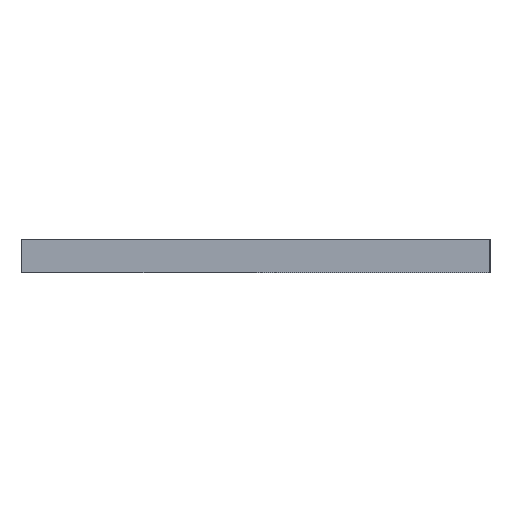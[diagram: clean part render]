
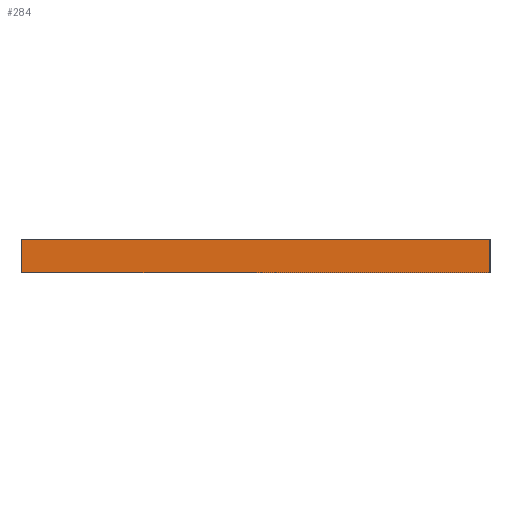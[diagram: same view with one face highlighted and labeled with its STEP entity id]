
A CAD part, left-side view. The second image highlights one B-rep face of the part: STEP entity #284.
In plain terms, the highlighted planar face has unit normal (-1, 0, 0).
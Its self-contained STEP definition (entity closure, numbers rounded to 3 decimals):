
#21 = EDGE_CURVE('',#22,#24,#26,.T.);
#22 = VERTEX_POINT('',#23);
#23 = CARTESIAN_POINT('',(-30.,10.5,0.));
#24 = VERTEX_POINT('',#25);
#25 = CARTESIAN_POINT('',(-30.,10.5,1.5));
#26 = SURFACE_CURVE('',#27,(#31,#43),.PCURVE_S1.);
#27 = LINE('',#28,#29);
#28 = CARTESIAN_POINT('',(-30.,10.5,0.));
#29 = VECTOR('',#30,1.);
#30 = DIRECTION('',(0.,0.,1.));
#31 = PCURVE('',#32,#37);
#32 = PLANE('',#33);
#33 = AXIS2_PLACEMENT_3D('',#34,#35,#36);
#34 = CARTESIAN_POINT('',(-30.,10.5,0.));
#35 = DIRECTION('',(0.,1.,0.));
#36 = DIRECTION('',(1.,0.,0.));
#37 = DEFINITIONAL_REPRESENTATION('',(#38),#42);
#38 = LINE('',#39,#40);
#39 = CARTESIAN_POINT('',(0.,0.));
#40 = VECTOR('',#41,1.);
#41 = DIRECTION('',(0.,-1.));
#42 = ( GEOMETRIC_REPRESENTATION_CONTEXT(2) 
PARAMETRIC_REPRESENTATION_CONTEXT() REPRESENTATION_CONTEXT('2D SPACE',''
  ) );
#43 = PCURVE('',#44,#49);
#44 = PLANE('',#45);
#45 = AXIS2_PLACEMENT_3D('',#46,#47,#48);
#46 = CARTESIAN_POINT('',(-30.,-10.5,0.));
#47 = DIRECTION('',(-1.,0.,0.));
#48 = DIRECTION('',(0.,1.,0.));
#49 = DEFINITIONAL_REPRESENTATION('',(#50),#54);
#50 = LINE('',#51,#52);
#51 = CARTESIAN_POINT('',(21.,0.));
#52 = VECTOR('',#53,1.);
#53 = DIRECTION('',(0.,-1.));
#54 = ( GEOMETRIC_REPRESENTATION_CONTEXT(2) 
PARAMETRIC_REPRESENTATION_CONTEXT() REPRESENTATION_CONTEXT('2D SPACE',''
  ) );
#72 = PLANE('',#73);
#73 = AXIS2_PLACEMENT_3D('',#74,#75,#76);
#74 = CARTESIAN_POINT('',(-1.681,-1.106,1.5));
#75 = DIRECTION('',(0.,0.,1.));
#76 = DIRECTION('',(1.,0.,-0.));
#126 = PLANE('',#127);
#127 = AXIS2_PLACEMENT_3D('',#128,#129,#130);
#128 = CARTESIAN_POINT('',(-1.681,-1.106,0.));
#129 = DIRECTION('',(0.,0.,1.));
#130 = DIRECTION('',(1.,0.,-0.));
#181 = PLANE('',#182);
#182 = AXIS2_PLACEMENT_3D('',#183,#184,#185);
#183 = CARTESIAN_POINT('',(30.,-10.5,0.));
#184 = DIRECTION('',(0.,-1.,0.));
#185 = DIRECTION('',(-1.,0.,0.));
#219 = VERTEX_POINT('',#220);
#220 = CARTESIAN_POINT('',(-30.,-10.5,1.5));
#241 = EDGE_CURVE('',#242,#219,#244,.T.);
#242 = VERTEX_POINT('',#243);
#243 = CARTESIAN_POINT('',(-30.,-10.5,0.));
#244 = SURFACE_CURVE('',#245,(#249,#256),.PCURVE_S1.);
#245 = LINE('',#246,#247);
#246 = CARTESIAN_POINT('',(-30.,-10.5,0.));
#247 = VECTOR('',#248,1.);
#248 = DIRECTION('',(0.,0.,1.));
#249 = PCURVE('',#181,#250);
#250 = DEFINITIONAL_REPRESENTATION('',(#251),#255);
#251 = LINE('',#252,#253);
#252 = CARTESIAN_POINT('',(60.,0.));
#253 = VECTOR('',#254,1.);
#254 = DIRECTION('',(0.,-1.));
#255 = ( GEOMETRIC_REPRESENTATION_CONTEXT(2) 
PARAMETRIC_REPRESENTATION_CONTEXT() REPRESENTATION_CONTEXT('2D SPACE',''
  ) );
#256 = PCURVE('',#44,#257);
#257 = DEFINITIONAL_REPRESENTATION('',(#258),#262);
#258 = LINE('',#259,#260);
#259 = CARTESIAN_POINT('',(0.,0.));
#260 = VECTOR('',#261,1.);
#261 = DIRECTION('',(0.,-1.));
#262 = ( GEOMETRIC_REPRESENTATION_CONTEXT(2) 
PARAMETRIC_REPRESENTATION_CONTEXT() REPRESENTATION_CONTEXT('2D SPACE',''
  ) );
#284 = ADVANCED_FACE('',(#285),#44,.T.);
#285 = FACE_BOUND('',#286,.T.);
#286 = EDGE_LOOP('',(#287,#288,#309,#310));
#287 = ORIENTED_EDGE('',*,*,#241,.T.);
#288 = ORIENTED_EDGE('',*,*,#289,.T.);
#289 = EDGE_CURVE('',#219,#24,#290,.T.);
#290 = SURFACE_CURVE('',#291,(#295,#302),.PCURVE_S1.);
#291 = LINE('',#292,#293);
#292 = CARTESIAN_POINT('',(-30.,-10.5,1.5));
#293 = VECTOR('',#294,1.);
#294 = DIRECTION('',(0.,1.,0.));
#295 = PCURVE('',#44,#296);
#296 = DEFINITIONAL_REPRESENTATION('',(#297),#301);
#297 = LINE('',#298,#299);
#298 = CARTESIAN_POINT('',(0.,-1.5));
#299 = VECTOR('',#300,1.);
#300 = DIRECTION('',(1.,0.));
#301 = ( GEOMETRIC_REPRESENTATION_CONTEXT(2) 
PARAMETRIC_REPRESENTATION_CONTEXT() REPRESENTATION_CONTEXT('2D SPACE',''
  ) );
#302 = PCURVE('',#72,#303);
#303 = DEFINITIONAL_REPRESENTATION('',(#304),#308);
#304 = LINE('',#305,#306);
#305 = CARTESIAN_POINT('',(-28.319,-9.394));
#306 = VECTOR('',#307,1.);
#307 = DIRECTION('',(0.,1.));
#308 = ( GEOMETRIC_REPRESENTATION_CONTEXT(2) 
PARAMETRIC_REPRESENTATION_CONTEXT() REPRESENTATION_CONTEXT('2D SPACE',''
  ) );
#309 = ORIENTED_EDGE('',*,*,#21,.F.);
#310 = ORIENTED_EDGE('',*,*,#311,.F.);
#311 = EDGE_CURVE('',#242,#22,#312,.T.);
#312 = SURFACE_CURVE('',#313,(#317,#324),.PCURVE_S1.);
#313 = LINE('',#314,#315);
#314 = CARTESIAN_POINT('',(-30.,-10.5,0.));
#315 = VECTOR('',#316,1.);
#316 = DIRECTION('',(0.,1.,0.));
#317 = PCURVE('',#44,#318);
#318 = DEFINITIONAL_REPRESENTATION('',(#319),#323);
#319 = LINE('',#320,#321);
#320 = CARTESIAN_POINT('',(0.,0.));
#321 = VECTOR('',#322,1.);
#322 = DIRECTION('',(1.,0.));
#323 = ( GEOMETRIC_REPRESENTATION_CONTEXT(2) 
PARAMETRIC_REPRESENTATION_CONTEXT() REPRESENTATION_CONTEXT('2D SPACE',''
  ) );
#324 = PCURVE('',#126,#325);
#325 = DEFINITIONAL_REPRESENTATION('',(#326),#330);
#326 = LINE('',#327,#328);
#327 = CARTESIAN_POINT('',(-28.319,-9.394));
#328 = VECTOR('',#329,1.);
#329 = DIRECTION('',(0.,1.));
#330 = ( GEOMETRIC_REPRESENTATION_CONTEXT(2) 
PARAMETRIC_REPRESENTATION_CONTEXT() REPRESENTATION_CONTEXT('2D SPACE',''
  ) );
